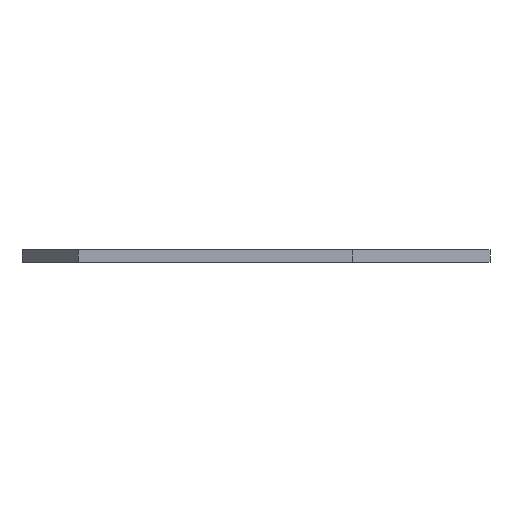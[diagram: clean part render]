
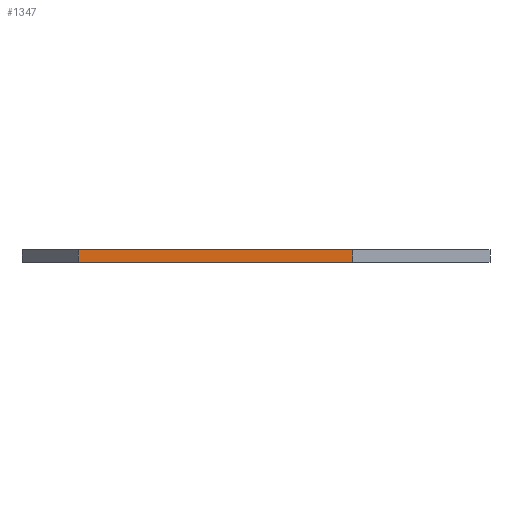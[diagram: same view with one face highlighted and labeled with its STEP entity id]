
A CAD part, left-side view. The second image highlights one B-rep face of the part: STEP entity #1347.
In plain terms, the highlighted planar face has unit normal (-1, 0, 0).
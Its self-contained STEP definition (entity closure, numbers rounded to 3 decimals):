
#168 = VERTEX_POINT('',#169);
#169 = CARTESIAN_POINT('',(57.,-118.,0.));
#175 = EDGE_CURVE('',#168,#176,#178,.T.);
#176 = VERTEX_POINT('',#177);
#177 = CARTESIAN_POINT('',(57.,-84.,0.));
#178 = LINE('',#179,#180);
#179 = CARTESIAN_POINT('',(57.,-118.,0.));
#180 = VECTOR('',#181,1.);
#181 = DIRECTION('',(0.,1.,0.));
#739 = VERTEX_POINT('',#740);
#740 = CARTESIAN_POINT('',(57.,-118.,1.6));
#746 = EDGE_CURVE('',#739,#747,#749,.T.);
#747 = VERTEX_POINT('',#748);
#748 = CARTESIAN_POINT('',(57.,-84.,1.6));
#749 = LINE('',#750,#751);
#750 = CARTESIAN_POINT('',(57.,-118.,1.6));
#751 = VECTOR('',#752,1.);
#752 = DIRECTION('',(0.,1.,0.));
#1317 = EDGE_CURVE('',#176,#747,#1318,.T.);
#1318 = LINE('',#1319,#1320);
#1319 = CARTESIAN_POINT('',(57.,-84.,0.));
#1320 = VECTOR('',#1321,1.);
#1321 = DIRECTION('',(0.,0.,1.));
#1347 = ADVANCED_FACE('',(#1348),#1359,.T.);
#1348 = FACE_BOUND('',#1349,.T.);
#1349 = EDGE_LOOP('',(#1350,#1356,#1357,#1358));
#1350 = ORIENTED_EDGE('',*,*,#1351,.T.);
#1351 = EDGE_CURVE('',#168,#739,#1352,.T.);
#1352 = LINE('',#1353,#1354);
#1353 = CARTESIAN_POINT('',(57.,-118.,0.));
#1354 = VECTOR('',#1355,1.);
#1355 = DIRECTION('',(0.,0.,1.));
#1356 = ORIENTED_EDGE('',*,*,#746,.T.);
#1357 = ORIENTED_EDGE('',*,*,#1317,.F.);
#1358 = ORIENTED_EDGE('',*,*,#175,.F.);
#1359 = PLANE('',#1360);
#1360 = AXIS2_PLACEMENT_3D('',#1361,#1362,#1363);
#1361 = CARTESIAN_POINT('',(57.,-118.,0.));
#1362 = DIRECTION('',(-1.,0.,0.));
#1363 = DIRECTION('',(0.,1.,0.));
